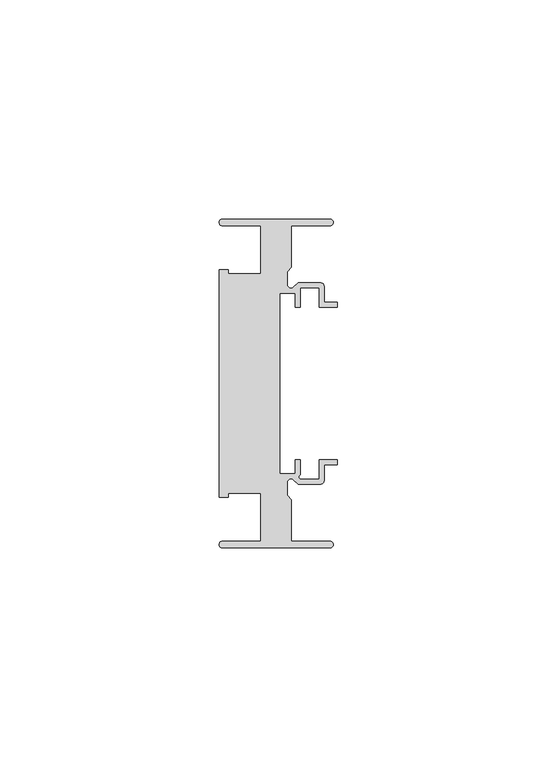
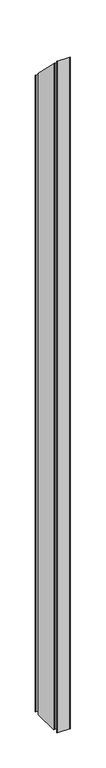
"""IFC4 building model written with IfcOpenShell, lengths in millimetres: member geometry, Прямоугольный импост : 7-AMG-2-Профиль 26Х75 Низ Л."""

from ifc_helpers import new_model, si_unit, frame, origin, place, context, project, spatial, polyline, circle_curve, ellipse_curve, source, transform, mapped, element, save
from ifc_brep_helpers import plane_surface, cylinder_surface, revolved_surface, advanced_brep


def member_59e4e7c9(model_context):
    return source(origin(), model_context, "Body", "AdvancedBrep", [
        advanced_brep(
        [(-1.7, 37.5, -1358.6001349), (-1.7, 36.0, -1358.6001349), (-10.5, 36.0, -1358.6001349), (-10.5, 26.5029437, -1358.6001349), (-11.5, 25.5029437, -1358.6001349), (-11.5, 22.6727922, -1358.6001349), (-9.9636039, 22.0363961, -1358.6001349), (-9.0, 23.0, -1358.6001349), (-4.0, 23.0, -1358.6001349), (-3.0, 22.0, -1358.6001349), (-3.0, 18.55, -1358.6001349), (0.0, 18.55, -1358.6001349), (0.0, 17.35, -1358.6001349), (-4.2, 17.35, -1358.6001349), (-4.2, 21.8, -1358.6001349), (-8.45, 21.8, -1358.6001349), (-8.45, 17.35, -1358.6001349), (-9.65, 17.35, -1358.6001349), (-9.65, 20.55, -1358.6001349), (-13.15, 20.55, -1358.6001349), (-13.15, -20.55, -1358.6001349), (-9.65, -20.55, -1358.6001349), (-9.65, -17.35, -1358.6001349), (-8.45, -17.35, -1358.6001349), (-8.45, -20.8470563, -1358.6001349), (-8.5029437, -21.8, -1358.6001349), (-4.2, -21.8, -1358.6001349), (-4.2, -17.35, -1358.6001349), (0.0, -17.35, -1358.6001349), (0.0, -18.55, -1358.6001349), (-3.0, -18.55, -1358.6001349), (-3.0, -22.0, -1358.6001349), (-4.0, -23.0, -1358.6001349), (-9.0, -23.0, -1358.6001349), (-9.9636039, -22.0363961, -1358.6001349), (-11.5, -22.6727922, -1358.6001349), (-11.5, -25.5029437, -1358.6001349), (-10.5, -26.5029437, -1358.6001349), (-10.5, -36.0, -1358.6001349), (-1.7, -36.0, -1358.6001349), (-1.7, -37.5, -1358.6001349), (-26.25, -37.5, -1358.6001349), (-26.25, -36.0, -1358.6001349), (-17.5, -36.0, -1358.6001349), (-17.5, -25.0, -1358.6001349), (-24.9359877, -25.0, -1358.6001349), (-24.9359877, -26.0, -1358.6001349), (-27.0, -26.0, -1358.6001349), (-27.0, 26.0, -1358.6001349), (-24.9359877, 26.0, -1358.6001349), (-24.9359877, 25.0, -1358.6001349), (-17.5, 25.0, -1358.6001349), (-17.5, 36.0, -1358.6001349), (-26.25, 36.0, -1358.6001349), (-26.25, 37.5, -1358.6001349), (-26.25, 37.5, -37.5), (-1.7, 37.5, -37.5), (-26.25, 36.0, -36.0), (-17.5, 36.0, -36.0), (-17.5, 25.0, -25.0), (-24.9359877, 25.0, -25.0), (-24.9359877, 26.0, -26.0), (-27.0, 26.0, -26.0), (-27.0, -26.0, 26.0), (-24.9359877, -26.0, 26.0), (-24.9359877, -25.0, 25.0), (-17.5, -25.0, 25.0), (-17.5, -36.0, 36.0), (-26.25, -36.0, 36.0), (-26.25, -37.5, 37.5), (-1.7, -37.5, 37.5), (-1.7, -36.0, 36.0), (-10.5, -36.0, 36.0), (-10.5, -26.5029437, 26.5029437), (-11.5, -25.5029437, 25.5029437), (-11.5, -22.6727922, 22.6727922), (-9.9636039, -22.0363961, 22.0363961), (-9.0, -23.0, 23.0), (-4.0, -23.0, 23.0), (-3.0, -22.0, 22.0), (-3.0, -18.55, 18.55), (0.0, -18.55, 18.55), (0.0, -17.35, 17.35), (-4.2, -17.35, 17.35), (-4.2, -21.8, 21.8), (-8.5029437, -21.8, 21.8), (-8.45, -20.8470563, 20.8470563), (-8.45, -17.35, 17.35), (-9.65, -17.35, 17.35), (-9.65, -20.55, 20.55), (-13.15, -20.55, 20.55), (-13.15, 20.55, -20.55), (-9.65, 20.55, -20.55), (-9.65, 17.35, -17.35), (-8.45, 17.35, -17.35), (-8.45, 21.8, -21.8), (-4.2, 21.8, -21.8), (-4.2, 17.35, -17.35), (0.0, 17.35, -17.35), (0.0, 18.55, -18.55), (-3.0, 18.55, -18.55), (-3.0, 22.0, -22.0), (-4.0, 23.0, -23.0), (-9.0, 23.0, -23.0), (-9.9636039, 22.0363961, -22.0363961), (-11.5, 22.6727922, -22.6727922), (-11.5, 25.5029437, -25.5029437), (-10.5, 26.5029437, -26.5029437), (-10.5, 36.0, -36.0), (-1.7, 36.0, -36.0)],
        [
            (0, 1, circle_curve(frame((-1.7, 36.75, -1358.6001349), z_axis=(0.0, 0.0, -1.0), x_axis=(-1.0, 0.0, 0.0)), 0.75)),
            (1, 2),
            (2, 3),
            (3, 4),
            (4, 5),
            (5, 6, circle_curve(frame((-10.6, 22.6727922, -1358.6001349), z_axis=(0.0, 0.0, 1.0), x_axis=(1.0, 0.0, 0.0)), 0.9)),
            (6, 7),
            (7, 8),
            (8, 9, circle_curve(frame((-4.0, 22.0, -1358.6001349), z_axis=(0.0, 0.0, -1.0), x_axis=(1.0, 0.0, 0.0)), 1.0)),
            (9, 10),
            (10, 11),
            (11, 12),
            (12, 13),
            (13, 14),
            (14, 15),
            (15, 16),
            (16, 17),
            (17, 18),
            (18, 19),
            (19, 20),
            (20, 21),
            (21, 22),
            (22, 23),
            (23, 24),
            (24, 25, circle_curve(frame((-8.3343131, -21.3314262, -1358.6001349), z_axis=(0.0, 0.0, 1.0), x_axis=(1.0, 0.0, 0.0)), 0.4979937)),
            (25, 26),
            (26, 27),
            (27, 28),
            (28, 29),
            (29, 30),
            (30, 31),
            (31, 32, circle_curve(frame((-4.0, -22.0, -1358.6001349), z_axis=(0.0, 0.0, -1.0), x_axis=(1.0, 0.0, 0.0)), 1.0)),
            (32, 33),
            (33, 34),
            (34, 35, circle_curve(frame((-10.6, -22.6727922, -1358.6001349), z_axis=(0.0, 0.0, 1.0), x_axis=(1.0, 0.0, 0.0)), 0.9)),
            (35, 36),
            (36, 37),
            (37, 38),
            (38, 39),
            (39, 40, circle_curve(frame((-1.7, -36.75, -1358.6001349), z_axis=(0.0, 0.0, -1.0), x_axis=(-1.0, 0.0, 0.0)), 0.75)),
            (40, 41),
            (41, 42, circle_curve(frame((-26.25, -36.75, -1358.6001349), z_axis=(0.0, 0.0, -1.0), x_axis=(-1.0, 0.0, 0.0)), 0.75)),
            (42, 43),
            (43, 44),
            (44, 45),
            (45, 46),
            (46, 47),
            (47, 48),
            (48, 49),
            (49, 50),
            (50, 51),
            (51, 52),
            (52, 53),
            (53, 54, circle_curve(frame((-26.25, 36.75, -1358.6001349), z_axis=(0.0, 0.0, -1.0), x_axis=(-1.0, 0.0, 0.0)), 0.75)),
            (54, 0),
            (55, 56),
            (56, 0),
            (54, 55),
            (57, 55, ellipse_curve(frame((-26.25, 36.75, -36.75), z_axis=(0.0, -0.7071067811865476, -0.7071067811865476), x_axis=(0.0, -0.7071067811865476, 0.7071067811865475)), 1.0606602, 0.75)),
            (53, 57),
            (58, 57),
            (52, 58),
            (59, 58),
            (51, 59),
            (60, 59),
            (50, 60),
            (61, 60),
            (49, 61),
            (62, 61),
            (48, 62),
            (63, 62),
            (47, 63),
            (64, 63),
            (46, 64),
            (65, 64),
            (45, 65),
            (66, 65),
            (44, 66),
            (67, 66),
            (43, 67),
            (68, 67),
            (42, 68),
            (69, 68, ellipse_curve(frame((-26.25, -36.75, 36.75), z_axis=(0.0, -0.7071067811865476, -0.7071067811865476), x_axis=(0.0, -0.7071067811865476, 0.7071067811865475)), 1.0606602, 0.75)),
            (41, 69),
            (70, 69),
            (40, 70),
            (71, 70, ellipse_curve(frame((-1.7, -36.75, 36.75), z_axis=(0.0, -0.7071067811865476, -0.7071067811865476), x_axis=(0.0, -0.7071067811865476, 0.7071067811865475)), 1.0606602, 0.75)),
            (39, 71),
            (72, 71),
            (38, 72),
            (73, 72),
            (37, 73),
            (74, 73),
            (36, 74),
            (75, 74),
            (35, 75),
            (76, 75, ellipse_curve(frame((-10.6, -22.6727922, 22.6727922), z_axis=(0.0, 0.7071067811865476, 0.7071067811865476), x_axis=(0.0, 0.7071067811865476, -0.7071067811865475)), 1.2727922, 0.9)),
            (34, 76),
            (77, 76),
            (33, 77),
            (78, 77),
            (32, 78),
            (79, 78, ellipse_curve(frame((-4.0, -22.0, 22.0), z_axis=(0.0, -0.7071067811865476, -0.7071067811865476), x_axis=(0.0, -0.7071067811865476, 0.7071067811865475)), 1.4142136, 1.0)),
            (31, 79),
            (80, 79),
            (30, 80),
            (81, 80),
            (29, 81),
            (82, 81),
            (28, 82),
            (83, 82),
            (27, 83),
            (84, 83),
            (26, 84),
            (85, 84),
            (25, 85),
            (86, 85, ellipse_curve(frame((-8.3343131, -21.3314262, 21.3314262), z_axis=(0.0, 0.7071067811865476, 0.7071067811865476), x_axis=(0.0, 0.7071067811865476, -0.7071067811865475)), 0.7042694, 0.4979937)),
            (24, 86),
            (87, 86),
            (23, 87),
            (88, 87),
            (22, 88),
            (89, 88),
            (21, 89),
            (90, 89),
            (20, 90),
            (91, 90),
            (19, 91),
            (92, 91),
            (18, 92),
            (93, 92),
            (17, 93),
            (94, 93),
            (16, 94),
            (95, 94),
            (15, 95),
            (96, 95),
            (14, 96),
            (97, 96),
            (13, 97),
            (98, 97),
            (12, 98),
            (99, 98),
            (11, 99),
            (100, 99),
            (10, 100),
            (101, 100),
            (9, 101),
            (102, 101, ellipse_curve(frame((-4.0, 22.0, -22.0), z_axis=(0.0, -0.7071067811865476, -0.7071067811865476), x_axis=(0.0, -0.7071067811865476, 0.7071067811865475)), 1.4142136, 1.0)),
            (8, 102),
            (103, 102),
            (7, 103),
            (104, 103),
            (6, 104),
            (105, 104, ellipse_curve(frame((-10.6, 22.6727922, -22.6727922), z_axis=(0.0, 0.7071067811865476, 0.7071067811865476), x_axis=(0.0, 0.7071067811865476, -0.7071067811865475)), 1.2727922, 0.9)),
            (5, 105),
            (106, 105),
            (4, 106),
            (107, 106),
            (3, 107),
            (108, 107),
            (2, 108),
            (109, 108),
            (1, 109),
            (56, 109, ellipse_curve(frame((-1.7, 36.75, -36.75), z_axis=(0.0, -0.7071067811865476, -0.7071067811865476), x_axis=(0.0, -0.7071067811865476, 0.7071067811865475)), 1.0606602, 0.75)),
        ],
        [
            plane_surface(frame((0.0, -45.7745836, -1358.6001349), z_axis=(0.0, 0.0, -1.0), x_axis=(-1.0, 0.0, 0.0))),
            plane_surface(frame((-1.7, 37.5, 0.0), z_axis=(0.0, 1.0, 0.0), x_axis=(0.0, 0.0, -1.0))),
            cylinder_surface(frame((-26.25, 36.75, 0.0), z_axis=(0.0, 0.0, 1.0), x_axis=(-1.0, 0.0, 0.0)), 0.75),
            plane_surface(frame((-26.25, 36.0, 0.0), z_axis=(0.0, -1.0, 0.0), x_axis=(0.0, 0.0, -1.0))),
            plane_surface(frame((-17.5, 36.0, 0.0), z_axis=(-1.0, 0.0, 0.0), x_axis=(0.0, 0.0, -1.0))),
            plane_surface(frame((-17.5, 25.0, 0.0), z_axis=(0.0, 1.0, 0.0), x_axis=(0.0, 0.0, -1.0))),
            plane_surface(frame((-24.9359877, 25.0, 0.0), z_axis=(1.0, 0.0, 0.0), x_axis=(0.0, 0.0, -1.0))),
            plane_surface(frame((-24.9359877, 26.0, 0.0), z_axis=(0.0, 1.0, 0.0), x_axis=(0.0, 0.0, -1.0))),
            plane_surface(frame((-27.0, 26.0, 0.0), z_axis=(-1.0, 0.0, 0.0), x_axis=(0.0, 0.0, -1.0))),
            plane_surface(frame((-27.0, -26.0, 0.0), z_axis=(0.0, -1.0, 0.0), x_axis=(0.0, 0.0, -1.0))),
            plane_surface(frame((-24.9359877, -26.0, 0.0), z_axis=(1.0, 0.0, 0.0), x_axis=(0.0, 0.0, -1.0))),
            plane_surface(frame((-24.9359877, -25.0, 0.0), z_axis=(0.0, -1.0, 0.0), x_axis=(0.0, 0.0, -1.0))),
            plane_surface(frame((-17.5, -25.0, 0.0), z_axis=(-1.0, 0.0, 0.0), x_axis=(0.0, 0.0, -1.0))),
            plane_surface(frame((-17.5, -36.0, 0.0), z_axis=(0.0, 1.0, 0.0), x_axis=(0.0, 0.0, -1.0))),
            cylinder_surface(frame((-26.25, -36.75, 0.0), z_axis=(0.0, 0.0, 1.0), x_axis=(-1.0, 0.0, 0.0)), 0.75),
            plane_surface(frame((-26.25, -37.5, 0.0), z_axis=(0.0, -1.0, 0.0), x_axis=(0.0, 0.0, -1.0))),
            cylinder_surface(frame((-1.7, -36.75, 0.0), z_axis=(0.0, 0.0, 1.0), x_axis=(-1.0, 0.0, 0.0)), 0.75),
            plane_surface(frame((-1.7, -36.0, 0.0), z_axis=(0.0, 1.0, 0.0), x_axis=(0.0, 0.0, -1.0))),
            plane_surface(frame((-10.5, -36.0, 0.0), z_axis=(1.0, 0.0, 0.0), x_axis=(0.0, 0.0, -1.0))),
            plane_surface(frame((-10.5, -26.5029437, 0.0), z_axis=(0.7071067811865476, 0.7071067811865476, 0.0), x_axis=(0.0, 0.0, -1.0))),
            plane_surface(frame((-11.5, -25.5029437, 0.0), z_axis=(1.0, 0.0, 0.0), x_axis=(0.0, 0.0, -1.0))),
            revolved_surface(polyline([(-9.7, -22.6727922, -1358.6001349), (-9.7, -22.6727922, 23.572792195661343)]), (-10.6, -22.6727922, 0.0), (0.0, 0.0, -1.0)),
            plane_surface(frame((-9.9636039, -22.0363961, 0.0), z_axis=(-0.7071067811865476, -0.7071067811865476, 0.0), x_axis=(0.0, 0.0, -1.0))),
            plane_surface(frame((-9.0, -23.0, 0.0), z_axis=(0.0, -1.0, 0.0), x_axis=(0.0, 0.0, -1.0))),
            cylinder_surface(frame((-4.0, -22.0, 0.0), z_axis=(0.0, 0.0, 1.0), x_axis=(1.0, 0.0, 0.0)), 1.0),
            plane_surface(frame((-3.0, -22.0, 0.0), z_axis=(1.0, 0.0, 0.0), x_axis=(0.0, 0.0, -1.0))),
            plane_surface(frame((-3.0, -18.55, 0.0), z_axis=(0.0, -1.0, 0.0), x_axis=(0.0, 0.0, -1.0))),
            plane_surface(frame((0.0, -18.55, 0.0), z_axis=(1.0, 0.0, 0.0), x_axis=(0.0, 0.0, -1.0))),
            plane_surface(frame((0.0, -17.35, 0.0), z_axis=(0.0, 1.0, 0.0), x_axis=(0.0, 0.0, -1.0))),
            plane_surface(frame((-4.2, -17.35, 0.0), z_axis=(-1.0, 0.0, 0.0), x_axis=(0.0, 0.0, -1.0))),
            plane_surface(frame((-4.2, -21.8, 0.0), z_axis=(0.0, 1.0, 0.0), x_axis=(0.0, 0.0, -1.0))),
            revolved_surface(polyline([(-7.836319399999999, -21.3314262, -1358.6001349), (-7.836319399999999, -21.3314262, 21.82941986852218)]), (-8.3343131, -21.3314262, 0.0), (0.0, 0.0, -1.0)),
            plane_surface(frame((-8.45, -20.8470563, 0.0), z_axis=(1.0, 0.0, 0.0), x_axis=(0.0, 0.0, -1.0))),
            plane_surface(frame((-8.45, -17.35, 0.0), z_axis=(0.0, 1.0, 0.0), x_axis=(0.0, 0.0, -1.0))),
            plane_surface(frame((-9.65, -17.35, 0.0), z_axis=(-1.0, 0.0, 0.0), x_axis=(0.0, 0.0, -1.0))),
            plane_surface(frame((-9.65, -20.55, 0.0), z_axis=(0.0, 1.0, 0.0), x_axis=(0.0, 0.0, -1.0))),
            plane_surface(frame((-13.15, -20.55, 0.0), z_axis=(1.0, 0.0, 0.0), x_axis=(0.0, 0.0, -1.0))),
            plane_surface(frame((-13.15, 20.55, 0.0), z_axis=(0.0, -1.0, 0.0), x_axis=(0.0, 0.0, -1.0))),
            plane_surface(frame((-9.65, 20.55, 0.0), z_axis=(-1.0, 0.0, 0.0), x_axis=(0.0, 0.0, -1.0))),
            plane_surface(frame((-9.65, 17.35, 0.0), z_axis=(0.0, -1.0, 0.0), x_axis=(0.0, 0.0, -1.0))),
            plane_surface(frame((-8.45, 17.35, 0.0), z_axis=(1.0, 0.0, 0.0), x_axis=(0.0, 0.0, -1.0))),
            plane_surface(frame((-8.45, 21.8, 0.0), z_axis=(0.0, -1.0, 0.0), x_axis=(0.0, 0.0, -1.0))),
            plane_surface(frame((-4.2, 21.8, 0.0), z_axis=(-1.0, 0.0, 0.0), x_axis=(0.0, 0.0, -1.0))),
            plane_surface(frame((-4.2, 17.35, 0.0), z_axis=(0.0, -1.0, 0.0), x_axis=(0.0, 0.0, -1.0))),
            plane_surface(frame((0.0, 17.35, 0.0), z_axis=(1.0, 0.0, 0.0), x_axis=(0.0, 0.0, -1.0))),
            plane_surface(frame((0.0, 18.55, 0.0), z_axis=(0.0, 1.0, 0.0), x_axis=(0.0, 0.0, -1.0))),
            plane_surface(frame((-3.0, 18.55, 0.0), z_axis=(1.0, 0.0, 0.0), x_axis=(0.0, 0.0, -1.0))),
            cylinder_surface(frame((-4.0, 22.0, 0.0), z_axis=(0.0, 0.0, 1.0), x_axis=(1.0, 0.0, 0.0)), 1.0),
            plane_surface(frame((-4.0, 23.0, 0.0), z_axis=(0.0, 1.0, 0.0), x_axis=(0.0, 0.0, -1.0))),
            plane_surface(frame((-9.0, 23.0, 0.0), z_axis=(-0.7071067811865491, 0.707106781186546, 0.0), x_axis=(0.0, 0.0, -1.0))),
            revolved_surface(polyline([(-9.7, 22.6727922, -1358.6001349), (-9.7, 22.6727922, -21.772792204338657)]), (-10.6, 22.6727922, 0.0), (0.0, 0.0, -1.0)),
            plane_surface(frame((-11.5, 22.6727922, 0.0), z_axis=(1.0, 0.0, 0.0), x_axis=(0.0, 0.0, -1.0))),
            plane_surface(frame((-11.5, 25.5029437, 0.0), z_axis=(0.7071067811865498, -0.7071067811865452, 0.0), x_axis=(0.0, 0.0, -1.0))),
            plane_surface(frame((-10.5, 26.5029437, 0.0), z_axis=(1.0, 0.0, 0.0), x_axis=(0.0, 0.0, -1.0))),
            plane_surface(frame((-10.5, 36.0, 0.0), z_axis=(0.0, -1.0, 0.0), x_axis=(0.0, 0.0, -1.0))),
            cylinder_surface(frame((-1.7, 36.75, 0.0), z_axis=(0.0, 0.0, 1.0), x_axis=(-1.0, 0.0, 0.0)), 0.75),
            plane_surface(frame((-304.8, 0.0, 0.0), z_axis=(0.0, 0.7071067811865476, 0.7071067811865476), x_axis=(0.0, 0.7071067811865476, -0.7071067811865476))),
        ],
        [
            (0, [[1, 2, 3, 4, 5, 6, 7, 8, 9, 10, 11, 12, 13, 14, 15, 16, 17, 18, 19, 20, 21, 22, 23, 24, 25, 26, 27, 28, 29, 30, 31, 32, 33, 34, 35, 36, 37, 38, 39, 40, 41, 42, 43, 44, 45, 46, 47, 48, 49, 50, 51, 52, 53, 54, 55]]),
            (1, [[56, 57, -55, 58]]),
            (2, [[59, -58, -54, 60]]),
            (3, [[61, -60, -53, 62]]),
            (4, [[63, -62, -52, 64]]),
            (5, [[65, -64, -51, 66]]),
            (6, [[67, -66, -50, 68]]),
            (7, [[69, -68, -49, 70]]),
            (8, [[71, -70, -48, 72]]),
            (9, [[73, -72, -47, 74]]),
            (10, [[75, -74, -46, 76]]),
            (11, [[77, -76, -45, 78]]),
            (12, [[79, -78, -44, 80]]),
            (13, [[81, -80, -43, 82]]),
            (14, [[83, -82, -42, 84]]),
            (15, [[85, -84, -41, 86]]),
            (16, [[87, -86, -40, 88]]),
            (17, [[89, -88, -39, 90]]),
            (18, [[91, -90, -38, 92]]),
            (19, [[93, -92, -37, 94]]),
            (20, [[95, -94, -36, 96]]),
            (21, [[97, -96, -35, 98]]),
            (22, [[99, -98, -34, 100]]),
            (23, [[101, -100, -33, 102]]),
            (24, [[103, -102, -32, 104]]),
            (25, [[105, -104, -31, 106]]),
            (26, [[107, -106, -30, 108]]),
            (27, [[109, -108, -29, 110]]),
            (28, [[111, -110, -28, 112]]),
            (29, [[113, -112, -27, 114]]),
            (30, [[115, -114, -26, 116]]),
            (31, [[117, -116, -25, 118]]),
            (32, [[119, -118, -24, 120]]),
            (33, [[121, -120, -23, 122]]),
            (34, [[123, -122, -22, 124]]),
            (35, [[125, -124, -21, 126]]),
            (36, [[127, -126, -20, 128]]),
            (37, [[129, -128, -19, 130]]),
            (38, [[131, -130, -18, 132]]),
            (39, [[133, -132, -17, 134]]),
            (40, [[135, -134, -16, 136]]),
            (41, [[137, -136, -15, 138]]),
            (42, [[139, -138, -14, 140]]),
            (43, [[141, -140, -13, 142]]),
            (44, [[143, -142, -12, 144]]),
            (45, [[145, -144, -11, 146]]),
            (46, [[147, -146, -10, 148]]),
            (47, [[149, -148, -9, 150]]),
            (48, [[151, -150, -8, 152]]),
            (49, [[153, -152, -7, 154]]),
            (50, [[155, -154, -6, 156]]),
            (51, [[157, -156, -5, 158]]),
            (52, [[159, -158, -4, 160]]),
            (53, [[161, -160, -3, 162]]),
            (54, [[163, -162, -2, 164]]),
            (55, [[165, -164, -1, -57]]),
            (56, [[-56, -59, -61, -63, -65, -67, -69, -71, -73, -75, -77, -79, -81, -83, -85, -87, -89, -91, -93, -95, -97, -99, -101, -103, -105, -107, -109, -111, -113, -115, -117, -119, -121, -123, -125, -127, -129, -131, -133, -135, -137, -139, -141, -143, -145, -147, -149, -151, -153, -155, -157, -159, -161, -163, -165]]),
        ],
    ),
    ])


if __name__ == "__main__":
    model = new_model("IFC4")
    model_context = context("Model", 3, world=origin())
    ifc_project = project(units=[si_unit("LENGTHUNIT", "METRE", prefix="MILLI")], contexts=[model_context])
    site = spatial("IfcSite", under=ifc_project)
    building = spatial("IfcBuilding", under=site)
    placement = place(None, origin())
    member_shape = member_59e4e7c9(model_context)
    element("IfcMember", 1, ObjectType="Прямоугольный импост : 7-AMG-2-Профиль 26Х75 Низ Л", at=placement, inside=building, context=model_context, shape_type="MappedRepresentation", body=[
        mapped(member_shape, transform((0.0, 0.0, 0.0), x_axis=(1.0, 0.0, 0.0), y_axis=(0.0, 1.0, 0.0), z_axis=(0.0, 0.0, 1.0))),
    ])
    save(model, "model.ifc")
